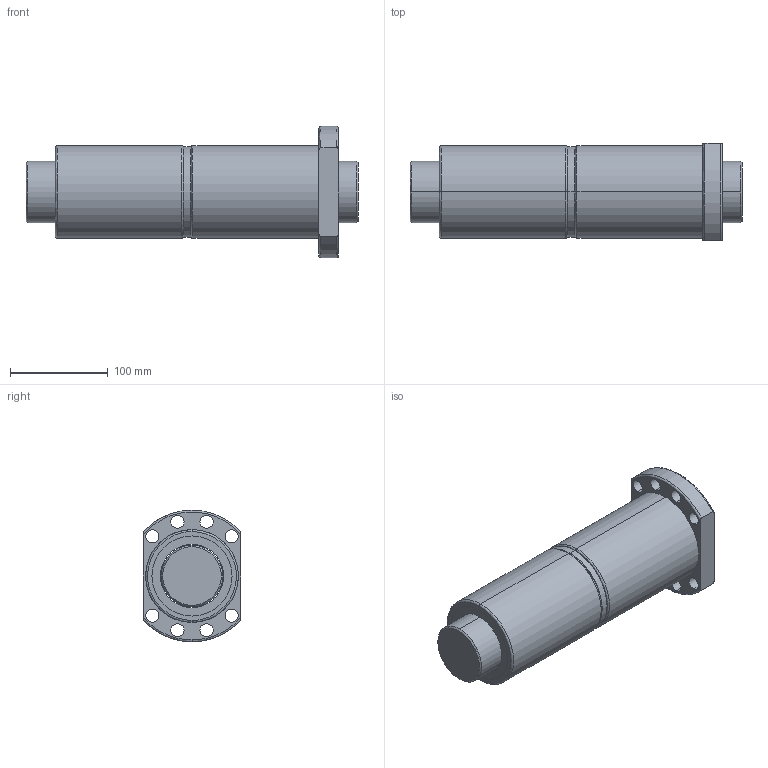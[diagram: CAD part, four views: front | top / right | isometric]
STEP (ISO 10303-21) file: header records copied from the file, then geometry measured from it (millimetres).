
FILE_DESCRIPTION (( 'STEP AP203' ), '1' );
FILE_NAME ('DFU06320.STEP', '2013-01-21T15:33:28', ( 'Halezer' ), ( '' ), 'SwSTEP 2.0', 'SolidWorks 2010', '' );
FILE_SCHEMA (( 'CONFIG_CONTROL_DESIGN' ));
Length unit declared in the file: millimetre
Products named in the file (1): DFU06320
Bounding box: 340 x 100 x 135 mm (x, y, z)
Volume: 2223383.5 mm3; surface area: 272585.4 mm2
Topology: 6 solids, 6 shells, 82 faces, 185 edges, 118 vertices
Faces by surface type: cylinder 45, plane 17, bspline 16, cone 4
Entity records: 2856 total; most frequent: CARTESIAN_POINT 921, DIRECTION 401, ORIENTED_EDGE 370, EDGE_CURVE 185, AXIS2_PLACEMENT_3D 173, VERTEX_POINT 118, EDGE_LOOP 111, CIRCLE 106
